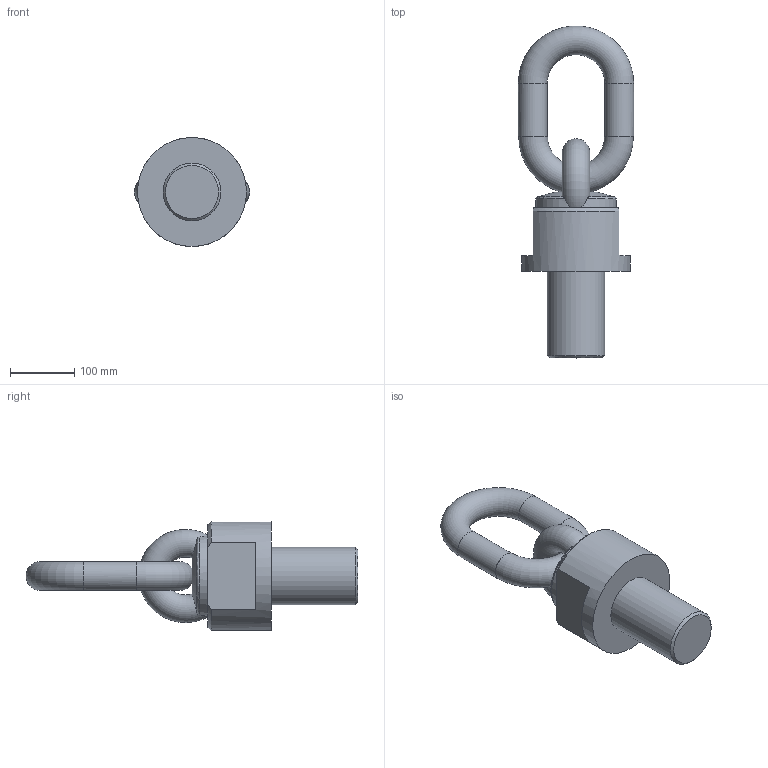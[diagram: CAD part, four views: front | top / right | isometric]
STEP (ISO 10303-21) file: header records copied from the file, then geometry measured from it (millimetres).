
FILE_DESCRIPTION( ( 'STEP AP203' ), '1' );
FILE_NAME( 'p:/temp/worker_53/temp/app_42_0201906271659335573334310e898ce_000000_00_00_000000/format_0/C80035090135.stp', '2019-06-27T14:59:34', ( '' ), ( '' ), ' ', 'PARTsolutions', ' ' );
FILE_SCHEMA( ( 'CONFIG_CONTROL_DESIGN' ) );
Length unit declared in the file: millimetre
Products named in the file (1): _C80035090135
Bounding box: 180 x 517.83 x 170 mm (x, y, z)
Volume: 4390564.7 mm3; surface area: 244192.8 mm2
Topology: 1 solids, 1 shells, 28 faces, 70 edges, 44 vertices
Faces by surface type: plane 12, cylinder 6, torus 5, cone 5
Full cylindrical faces by diameter (mm): 45 x2, 90 x1, 170 x1
Entity records: 1294 total; most frequent: CARTESIAN_POINT 644, DIRECTION 122, ORIENTED_EDGE 116, EDGE_CURVE 58, AXIS2_PLACEMENT_3D 57, EDGE_LOOP 42, VERTEX_POINT 41, FACE_OUTER_BOUND 35
